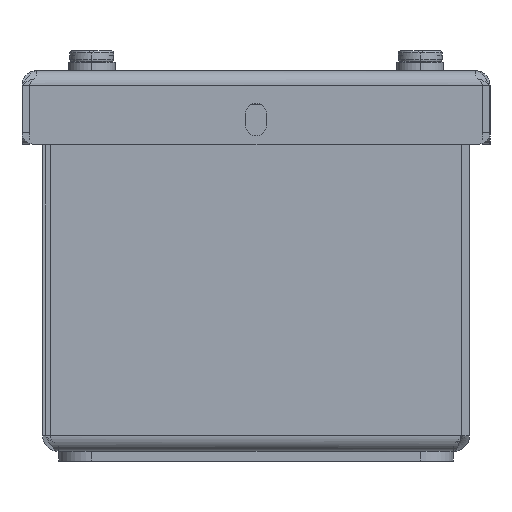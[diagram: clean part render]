
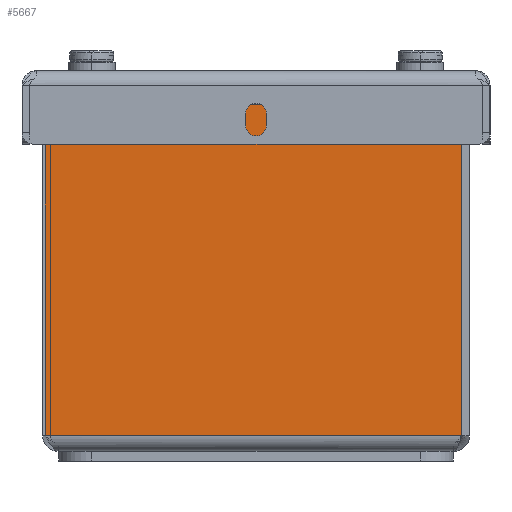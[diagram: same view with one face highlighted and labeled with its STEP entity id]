
A CAD part, left-side view. The second image highlights one B-rep face of the part: STEP entity #5667.
In plain terms, the highlighted planar face has unit normal (-1, 0, 0).
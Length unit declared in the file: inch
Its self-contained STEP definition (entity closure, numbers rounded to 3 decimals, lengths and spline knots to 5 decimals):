
#263=DIRECTION('',(0.,-1.,0.));
#264=VECTOR('',#263,3.168);
#265=CARTESIAN_POINT('',(0.,3.228,0.12));
#266=LINE('',#265,#264);
#1706=DIRECTION('',(0.,-1.,0.));
#1707=VECTOR('',#1706,2.47175);
#1708=CARTESIAN_POINT('',(0.,3.228,2.638));
#1709=LINE('',#1708,#1707);
#1787=DIRECTION('',(0.,0.,1.));
#1788=VECTOR('',#1787,2.518);
#1789=CARTESIAN_POINT('',(0.,3.228,0.12));
#1790=LINE('',#1789,#1788);
#1794=DIRECTION('',(0.,0.,1.));
#1795=VECTOR('',#1794,0.042);
#1796=CARTESIAN_POINT('',(0.,0.75625,2.638));
#1797=LINE('',#1796,#1795);
#1801=DIRECTION('',(0.,1.,0.));
#1802=VECTOR('',#1801,0.65125);
#1803=CARTESIAN_POINT('',(0.,0.105,2.68));
#1804=LINE('',#1803,#1802);
#1808=CARTESIAN_POINT('',(0.,0.105,2.635));
#1809=DIRECTION('',(-1.,0.,0.));
#1810=DIRECTION('',(0.,-1.,0.));
#1811=AXIS2_PLACEMENT_3D('',#1808,#1809,#1810);
#1858=DIRECTION('',(0.,0.,1.));
#1859=VECTOR('',#1858,2.515);
#1860=CARTESIAN_POINT('',(0.,0.06,0.12));
#1861=LINE('',#1860,#1859);
#3535=CARTESIAN_POINT('',(0.,0.75625,2.638));
#3536=CARTESIAN_POINT('',(0.,0.75625,2.68));
#3537=VERTEX_POINT('',#3535);
#3538=VERTEX_POINT('',#3536);
#3663=CARTESIAN_POINT('',(0.,3.228,0.12));
#3664=CARTESIAN_POINT('',(0.,3.228,2.638));
#3665=VERTEX_POINT('',#3663);
#3666=VERTEX_POINT('',#3664);
#3727=CARTESIAN_POINT('',(0.,0.06,2.635));
#3728=CARTESIAN_POINT('',(0.,0.105,2.68));
#3729=VERTEX_POINT('',#3727);
#3730=VERTEX_POINT('',#3728);
#3735=CARTESIAN_POINT('',(0.,0.06,0.12));
#3736=VERTEX_POINT('',#3735);
#5649=CARTESIAN_POINT('',(0.,3.25,0.));
#5650=DIRECTION('',(-1.,0.,0.));
#5651=DIRECTION('',(0.,-1.,0.));
#5652=AXIS2_PLACEMENT_3D('',#5649,#5650,#5651);
#5653=PLANE('',#5652);
#5654=ORIENTED_EDGE('',*,*,#5246,.T.);
#5655=ORIENTED_EDGE('',*,*,#5639,.T.);
#5657=ORIENTED_EDGE('',*,*,#5656,.T.);
#5659=ORIENTED_EDGE('',*,*,#5658,.F.);
#5661=ORIENTED_EDGE('',*,*,#5660,.F.);
#5663=ORIENTED_EDGE('',*,*,#5662,.F.);
#5664=ORIENTED_EDGE('',*,*,#4133,.F.);
#5665=EDGE_LOOP('',(#5654,#5655,#5657,#5659,#5661,#5663,#5664));
#5666=FACE_OUTER_BOUND('',#5665,.F.);
#1812=CIRCLE('',#1811,0.045);
#4133=EDGE_CURVE('',#3665,#3736,#266,.T.);
#5246=EDGE_CURVE('',#3665,#3666,#1790,.T.);
#5639=EDGE_CURVE('',#3666,#3537,#1709,.T.);
#5656=EDGE_CURVE('',#3537,#3538,#1797,.T.);
#5658=EDGE_CURVE('',#3730,#3538,#1804,.T.);
#5660=EDGE_CURVE('',#3729,#3730,#1812,.T.);
#5662=EDGE_CURVE('',#3736,#3729,#1861,.T.);
#5667=ADVANCED_FACE('',(#5666),#5653,.T.);
